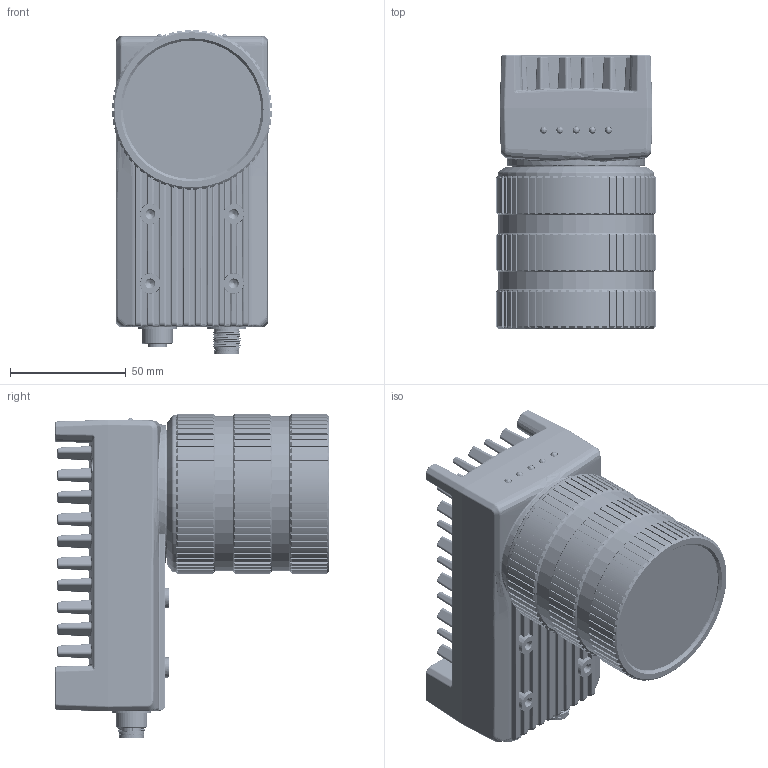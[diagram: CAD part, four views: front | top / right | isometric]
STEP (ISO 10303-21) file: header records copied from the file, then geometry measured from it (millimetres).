
FILE_DESCRIPTION((''),'2;1');
FILE_NAME('DE-30-002970_ASM','2026-01-06T15:32:42',('gaozhen11'),(''),'CREO PARAMETRIC BY PTC INC, 2020044','CREO PARAMETRIC BY PTC INC, 2020044','');
FILE_SCHEMA(('CONFIG_CONTROL_DESIGN','SHAPE_APPEARANCE_LAYERS_GROUPS'));
Products named in the file (213): DE-19-003396; DE-17-000301; D-01-35-26-0007; D-01-35-26-0034; D-01-37-26-0028; D-01-32-26-0053; SC-T1M2X4NL; DE-13-003358; SC-T1M2X3NL-B; D-01-37-26-0398; DE-14-024333; DE-14-024448; DE-13-003582; DE-20-042730_ASM; DE-13-000038; DE-17-000584; DE-20-042731_ASM; DE-15-000091; DE-18-000021; DE-20-042664_ASM; SC-KM2_5X6B-JMF; D-01-37-26-0031; SC-PM3X7_5T10-L4-SUS304-BZN; SC-KM2_5X5B-NL-JMF; DE-20-042729_ASM; MV-20625REV10-202506171510; 1238; 100100931; 100100927; 100101013; 100101103; 100101982; 100101552; 100100929; 100101549; 100102737; 100100928; 100101960; 100101985; 100101028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
Assembly tree (1062 placements, depth 6):
  DE-30-002970_ASM
    DE-20-042729_ASM
      DE-20-042730_ASM
        DE-19-003396
        DE-17-000301
        D-01-35-26-0007
        D-01-35-26-0034
        D-01-37-26-0028
        D-01-32-26-0053
        SC-T1M2X4NL  x2
        DE-13-003358
        SC-T1M2X3NL-B  x2
        D-01-37-26-0398
        DE-14-024333
        DE-14-024448
        DE-13-003582
      DE-20-042731_ASM
        DE-13-000038
        DE-17-000584
      DE-20-042664_ASM
        DE-15-000091
        DE-18-000021
      SC-KM2_5X6B-JMF  x4
      D-01-37-26-0031
      SC-PM3X7_5T10-L4-SUS304-BZN  x4
      SC-KM2_5X5B-NL-JMF
    DE-20-042652_ASM
      DE-20-042662_ASM
        MV-20625REV10-202506171510_ASM
          MV-20625REV10-202506171510
          1238  x54
          100100931  x38
          100100927  x26
          100101013  x11
          100101103
          100101982
          100101552  x2
          100100929  x43
          100101549  x2
          100102737  x9
          100100928  x20
          100101960  x8
          100101985
          100101028  x45
          100102733
          100101035
          100101037
          100100930  x2
          100102738
          100101550  x2
          100100926
          100101556  x4
          100101063
          100200029  x11
          100200028  x25
          100100452  x20
          1001  x31
          100100467  x8
          100200004  x32
          100200596  x13
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Bounding box: 68.99 x 118.2 x 139.99 mm (x, y, z)
Volume: 203795.5 mm3; surface area: 202509.1 mm2
Topology: 1166 solids, 1208 shells, 27196 faces, 66343 edges, 42375 vertices
Faces by surface type: plane 17708, cylinder 5748, bspline 1509, cone 759, sphere 658, torus 572, extrusion 202, revolution 40
Entity records: 773205 total; most frequent: CARTESIAN_POINT 226000, ORIENTED_EDGE 89751, DIRECTION 87327, EDGE_CURVE 45048, AXIS2_PLACEMENT_3D 29990, VERTEX_POINT 28721, VECTOR 27309, PRESENTATION_STYLE_ASSIGNMENT 27290
